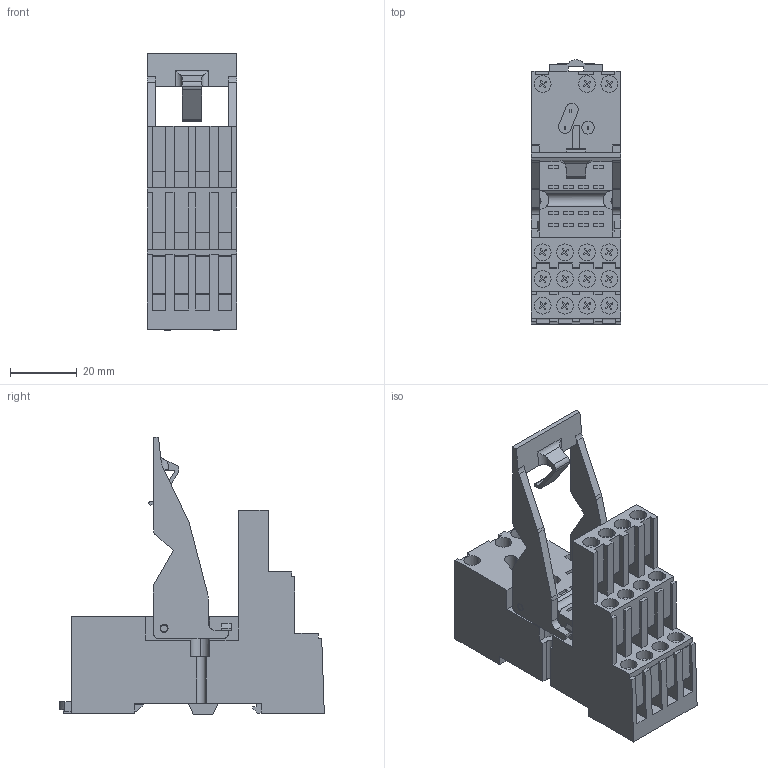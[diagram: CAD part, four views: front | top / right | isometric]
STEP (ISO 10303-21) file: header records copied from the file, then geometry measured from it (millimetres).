
FILE_DESCRIPTION (( 'STEP AP203' ), '1' );
FILE_NAME ('Ðàçúåì äëÿ ðåëå ÐM5 22-4 EKF AVERES.STEP', '2024-07-02T09:41:31', ( '' ), ( '' ), 'SwSTEP 2.0', 'SolidWorks 2021', '' );
FILE_SCHEMA (( 'CONFIG_CONTROL_DESIGN' ));
Length unit declared in the file: millimetre
Products named in the file (1): Ðàçúåì äëÿ ðåëå ÐM5 22-4 EKF AVERES
Bounding box: 27 x 79.5 x 83.5 mm (x, y, z)
Volume: 61654.5 mm3; surface area: 21778.7 mm2
Topology: 1 solids, 1 shells, 900 faces, 2579 edges, 1710 vertices
Faces by surface type: plane 635, bspline 185, cylinder 80
Entity records: 32698 total; most frequent: CARTESIAN_POINT 10433, ORIENTED_EDGE 5158, DIRECTION 3680, EDGE_CURVE 2579, VECTOR 1938, LINE 1938, VERTEX_POINT 1710, EDGE_LOOP 991
